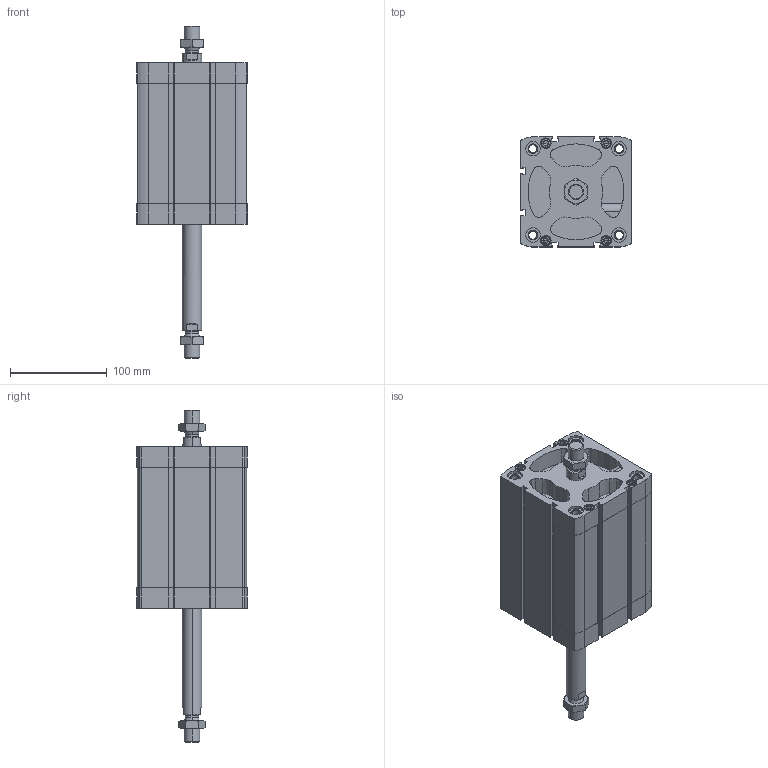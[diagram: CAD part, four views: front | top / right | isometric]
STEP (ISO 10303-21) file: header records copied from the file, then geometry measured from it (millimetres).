
FILE_DESCRIPTION (( 'STEP AP203' ), '1' );
FILE_NAME ('CCN100-100-P.STEP', '2020-06-22T19:12:40', ( '' ), ( '' ), 'SwSTEP 2.0', 'SolidWorks 2019', '' );
FILE_SCHEMA (( 'CONFIG_CONTROL_DESIGN' ));
Length unit declared in the file: millimetre
Products named in the file (1): CCN100-100-P
Bounding box: 113.5 x 113.5 x 342.4 mm (x, y, z)
Volume: 1208569.8 mm3; surface area: 255179.6 mm2
Topology: 4 solids, 4 shells, 685 faces, 1757 edges, 1118 vertices
Faces by surface type: plane 305, cylinder 280, cone 92, torus 8
Entity records: 22642 total; most frequent: CARTESIAN_POINT 5549, DIRECTION 3721, ORIENTED_EDGE 3482, EDGE_CURVE 1741, AXIS2_PLACEMENT_3D 1392, VERTEX_POINT 1118, VECTOR 937, LINE 937
